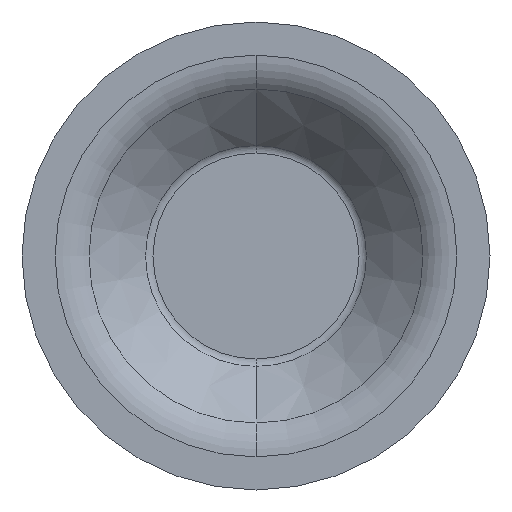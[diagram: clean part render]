
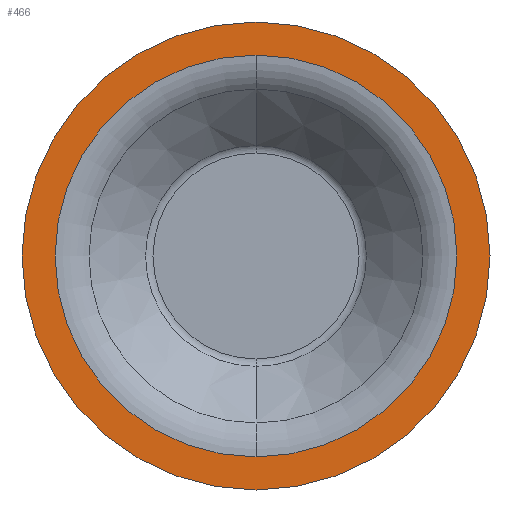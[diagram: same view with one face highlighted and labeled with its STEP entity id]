
A CAD part, front view. The second image highlights one B-rep face of the part: STEP entity #466.
In plain terms, the highlighted planar face has unit normal (0, -1, 0).
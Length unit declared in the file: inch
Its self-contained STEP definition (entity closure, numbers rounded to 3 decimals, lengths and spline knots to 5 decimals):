
#15 = DIRECTION ( 'NONE',  ( 0., 0., 1. ) ) ;
#26 = CARTESIAN_POINT ( 'NONE',  ( 0.85878, -0.395, 0. ) ) ;
#41 = ORIENTED_EDGE ( 'NONE', *, *, #212, .F. ) ;
#43 = VERTEX_POINT ( 'NONE', #217 ) ;
#47 = AXIS2_PLACEMENT_3D ( 'NONE', #107, #357, #527 ) ;
#56 = CARTESIAN_POINT ( 'NONE',  ( 0., -0.395, 0. ) ) ;
#68 = AXIS2_PLACEMENT_3D ( 'NONE', #56, #396, #15 ) ;
#75 = EDGE_CURVE ( 'NONE', #252, #437, #153, .T. ) ;
#99 = CARTESIAN_POINT ( 'NONE',  ( 0., -0.395, -1. ) ) ;
#100 = DIRECTION ( 'NONE',  ( 0., 0., 1. ) ) ;
#107 = CARTESIAN_POINT ( 'NONE',  ( 0., -0.395, 0. ) ) ;
#153 = CIRCLE ( 'NONE', #281, 1. ) ;
#158 = EDGE_CURVE ( 'NONE', #342, #43, #308, .T. ) ;
#163 = AXIS2_PLACEMENT_3D ( 'NONE', #306, #309, #181 ) ;
#181 = DIRECTION ( 'NONE',  ( 0., 0., 1. ) ) ;
#190 = DIRECTION ( 'NONE',  ( 0., 1., 0. ) ) ;
#212 = EDGE_CURVE ( 'NONE', #437, #252, #544, .T. ) ;
#217 = CARTESIAN_POINT ( 'NONE',  ( 0., -0.395, 0.85878 ) ) ;
#220 = EDGE_CURVE ( 'NONE', #43, #342, #307, .T. ) ;
#229 = PLANE ( 'NONE',  #318 ) ;
#244 = ORIENTED_EDGE ( 'NONE', *, *, #158, .T. ) ;
#249 = DIRECTION ( 'NONE',  ( 0., 1., 0. ) ) ;
#252 = VERTEX_POINT ( 'NONE', #99 ) ;
#253 = CARTESIAN_POINT ( 'NONE',  ( 0., -0.395, 0. ) ) ;
#268 = ORIENTED_EDGE ( 'NONE', *, *, #220, .T. ) ;
#281 = AXIS2_PLACEMENT_3D ( 'NONE', #253, #249, #344 ) ;
#306 = CARTESIAN_POINT ( 'NONE',  ( 0., -0.395, 0. ) ) ;
#307 = CIRCLE ( 'NONE', #68, 0.85878 ) ;
#308 = CIRCLE ( 'NONE', #47, 0.85878 ) ;
#309 = DIRECTION ( 'NONE',  ( 0., 1., 0. ) ) ;
#311 = EDGE_LOOP ( 'NONE', ( #41, #460 ) ) ;
#318 = AXIS2_PLACEMENT_3D ( 'NONE', #26, #190, #100 ) ;
#342 = VERTEX_POINT ( 'NONE', #449 ) ;
#344 = DIRECTION ( 'NONE',  ( 0., 0., 1. ) ) ;
#357 = DIRECTION ( 'NONE',  ( 0., 1., 0. ) ) ;
#358 = CARTESIAN_POINT ( 'NONE',  ( 0., -0.395, 1. ) ) ;
#362 = FACE_BOUND ( 'NONE', #369, .T. ) ;
#369 = EDGE_LOOP ( 'NONE', ( #268, #244 ) ) ;
#396 = DIRECTION ( 'NONE',  ( 0., 1., 0. ) ) ;
#398 = FACE_OUTER_BOUND ( 'NONE', #311, .T. ) ;
#437 = VERTEX_POINT ( 'NONE', #358 ) ;
#449 = CARTESIAN_POINT ( 'NONE',  ( 0., -0.395, -0.85878 ) ) ;
#460 = ORIENTED_EDGE ( 'NONE', *, *, #75, .F. ) ;
#466 = ADVANCED_FACE ( 'NONE', ( #398, #362 ), #229, .F. ) ;
#527 = DIRECTION ( 'NONE',  ( 0., 0., 1. ) ) ;
#544 = CIRCLE ( 'NONE', #163, 1. ) ;
